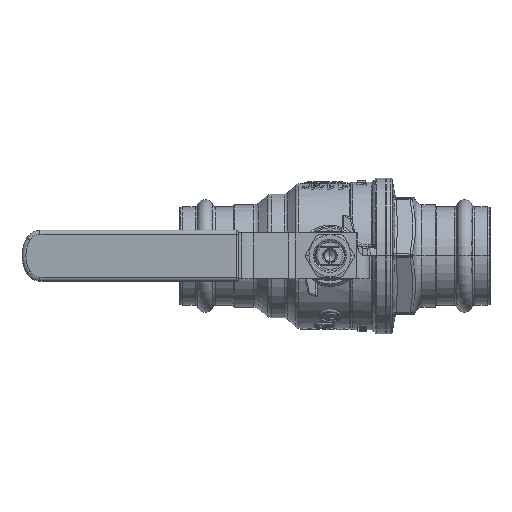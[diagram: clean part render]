
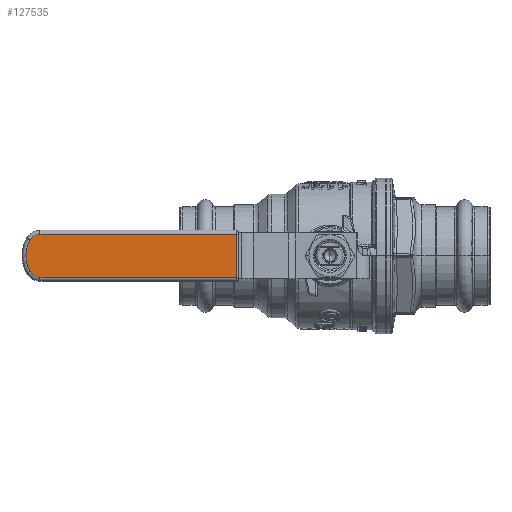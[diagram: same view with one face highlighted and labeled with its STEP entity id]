
A CAD part, top view. The second image highlights one B-rep face of the part: STEP entity #127535.
In plain terms, the highlighted planar face has unit normal (0, 0, 1).
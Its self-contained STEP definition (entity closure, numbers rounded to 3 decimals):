
#126556 = CYLINDRICAL_SURFACE('',#126557,0.7);
#126557 = AXIS2_PLACEMENT_3D('',#126558,#126559,#126560);
#126558 = CARTESIAN_POINT('',(-36.7,8.635,66.3));
#126559 = DIRECTION('',(0.,-1.,0.));
#126560 = DIRECTION('',(0.,0.,1.));
#127056 = VERTEX_POINT('',#127057);
#127057 = CARTESIAN_POINT('',(-36.7,8.5,67.));
#127079 = EDGE_CURVE('',#127056,#127080,#127082,.T.);
#127080 = VERTEX_POINT('',#127081);
#127081 = CARTESIAN_POINT('',(-36.7,-8.5,67.));
#127082 = SURFACE_CURVE('',#127083,(#127087,#127094),.PCURVE_S1.);
#127083 = LINE('',#127084,#127085);
#127084 = CARTESIAN_POINT('',(-36.7,8.5,67.));
#127085 = VECTOR('',#127086,1.);
#127086 = DIRECTION('',(0.,-1.,0.));
#127087 = PCURVE('',#126556,#127088);
#127088 = DEFINITIONAL_REPRESENTATION('',(#127089),#127093);
#127089 = LINE('',#127090,#127091);
#127090 = CARTESIAN_POINT('',(6.283,0.135));
#127091 = VECTOR('',#127092,1.);
#127092 = DIRECTION('',(0.,1.));
#127093 = ( GEOMETRIC_REPRESENTATION_CONTEXT(2) 
PARAMETRIC_REPRESENTATION_CONTEXT() REPRESENTATION_CONTEXT('2D SPACE',''
  ) );
#127094 = PCURVE('',#127095,#127100);
#127095 = PLANE('',#127096);
#127096 = AXIS2_PLACEMENT_3D('',#127097,#127098,#127099);
#127097 = CARTESIAN_POINT('',(-121.,10.,67.));
#127098 = DIRECTION('',(0.,0.,1.));
#127099 = DIRECTION('',(0.,-1.,0.));
#127100 = DEFINITIONAL_REPRESENTATION('',(#127101),#127105);
#127101 = LINE('',#127102,#127103);
#127102 = CARTESIAN_POINT('',(1.5,84.3));
#127103 = VECTOR('',#127104,1.);
#127104 = DIRECTION('',(1.,0.));
#127105 = ( GEOMETRIC_REPRESENTATION_CONTEXT(2) 
PARAMETRIC_REPRESENTATION_CONTEXT() REPRESENTATION_CONTEXT('2D SPACE',''
  ) );
#127151 = CYLINDRICAL_SURFACE('',#127152,1.5);
#127152 = AXIS2_PLACEMENT_3D('',#127153,#127154,#127155);
#127153 = CARTESIAN_POINT('',(-114.045,-8.5,65.5));
#127154 = DIRECTION('',(1.,0.,0.));
#127155 = DIRECTION('',(0.,-1.,0.));
#127445 = TOROIDAL_SURFACE('',#127446,4.5,1.5);
#127446 = AXIS2_PLACEMENT_3D('',#127447,#127448,#127449);
#127447 = CARTESIAN_POINT('',(-113.928,-4.,65.5));
#127448 = DIRECTION('',(0.,0.,-1.));
#127449 = DIRECTION('',(-0.882,-0.472,
    0.));
#127461 = VERTEX_POINT('',#127462);
#127462 = CARTESIAN_POINT('',(-117.825,-6.25,67.));
#127477 = TOROIDAL_SURFACE('',#127478,12.5,1.5);
#127478 = AXIS2_PLACEMENT_3D('',#127479,#127480,#127481);
#127479 = CARTESIAN_POINT('',(-107.,0.,65.5));
#127480 = DIRECTION('',(0.,0.,1.));
#127481 = DIRECTION('',(-0.861,0.508,0.)
  );
#127491 = VERTEX_POINT('',#127492);
#127492 = CARTESIAN_POINT('',(-113.928,-8.5,67.));
#127514 = EDGE_CURVE('',#127461,#127491,#127515,.T.);
#127515 = SURFACE_CURVE('',#127516,(#127521,#127528),.PCURVE_S1.);
#127516 = CIRCLE('',#127517,4.5);
#127517 = AXIS2_PLACEMENT_3D('',#127518,#127519,#127520);
#127518 = CARTESIAN_POINT('',(-113.928,-4.,67.));
#127519 = DIRECTION('',(0.,0.,1.));
#127520 = DIRECTION('',(-0.866,-0.5,0.));
#127521 = PCURVE('',#127445,#127522);
#127522 = DEFINITIONAL_REPRESENTATION('',(#127523),#127527);
#127523 = LINE('',#127524,#127525);
#127524 = CARTESIAN_POINT('',(6.251,4.712));
#127525 = VECTOR('',#127526,1.);
#127526 = DIRECTION('',(-1.,0.));
#127527 = ( GEOMETRIC_REPRESENTATION_CONTEXT(2) 
PARAMETRIC_REPRESENTATION_CONTEXT() REPRESENTATION_CONTEXT('2D SPACE',''
  ) );
#127528 = PCURVE('',#127095,#127529);
#127529 = DEFINITIONAL_REPRESENTATION('',(#127530),#127534);
#127530 = CIRCLE('',#127531,4.5);
#127531 = AXIS2_PLACEMENT_2D('',#127532,#127533);
#127532 = CARTESIAN_POINT('',(14.,7.072));
#127533 = DIRECTION('',(0.5,-0.866));
#127534 = ( GEOMETRIC_REPRESENTATION_CONTEXT(2) 
PARAMETRIC_REPRESENTATION_CONTEXT() REPRESENTATION_CONTEXT('2D SPACE',''
  ) );
#127535 = ADVANCED_FACE('',(#127536),#127095,.T.);
#127536 = FACE_BOUND('',#127537,.T.);
#127537 = EDGE_LOOP('',(#127538,#127566,#127595,#127617,#127618,#127639)
  );
#127538 = ORIENTED_EDGE('',*,*,#127539,.T.);
#127539 = EDGE_CURVE('',#127056,#127540,#127542,.T.);
#127540 = VERTEX_POINT('',#127541);
#127541 = CARTESIAN_POINT('',(-113.928,8.5,67.));
#127542 = SURFACE_CURVE('',#127543,(#127547,#127554),.PCURVE_S1.);
#127543 = LINE('',#127544,#127545);
#127544 = CARTESIAN_POINT('',(-36.7,8.5,67.));
#127545 = VECTOR('',#127546,1.);
#127546 = DIRECTION('',(-1.,0.,0.));
#127547 = PCURVE('',#127095,#127548);
#127548 = DEFINITIONAL_REPRESENTATION('',(#127549),#127553);
#127549 = LINE('',#127550,#127551);
#127550 = CARTESIAN_POINT('',(1.5,84.3));
#127551 = VECTOR('',#127552,1.);
#127552 = DIRECTION('',(0.,-1.));
#127553 = ( GEOMETRIC_REPRESENTATION_CONTEXT(2) 
PARAMETRIC_REPRESENTATION_CONTEXT() REPRESENTATION_CONTEXT('2D SPACE',''
  ) );
#127554 = PCURVE('',#127555,#127560);
#127555 = CYLINDRICAL_SURFACE('',#127556,1.5);
#127556 = AXIS2_PLACEMENT_3D('',#127557,#127558,#127559);
#127557 = CARTESIAN_POINT('',(-35.863,8.5,65.5));
#127558 = DIRECTION('',(-1.,0.,0.));
#127559 = DIRECTION('',(0.,1.,0.));
#127560 = DEFINITIONAL_REPRESENTATION('',(#127561),#127565);
#127561 = LINE('',#127562,#127563);
#127562 = CARTESIAN_POINT('',(4.712,0.837));
#127563 = VECTOR('',#127564,1.);
#127564 = DIRECTION('',(0.,1.));
#127565 = ( GEOMETRIC_REPRESENTATION_CONTEXT(2) 
PARAMETRIC_REPRESENTATION_CONTEXT() REPRESENTATION_CONTEXT('2D SPACE',''
  ) );
#127566 = ORIENTED_EDGE('',*,*,#127567,.T.);
#127567 = EDGE_CURVE('',#127540,#127568,#127570,.T.);
#127568 = VERTEX_POINT('',#127569);
#127569 = CARTESIAN_POINT('',(-117.825,6.25,67.));
#127570 = SURFACE_CURVE('',#127571,(#127576,#127583),.PCURVE_S1.);
#127571 = CIRCLE('',#127572,4.5);
#127572 = AXIS2_PLACEMENT_3D('',#127573,#127574,#127575);
#127573 = CARTESIAN_POINT('',(-113.928,4.,67.));
#127574 = DIRECTION('',(0.,0.,1.));
#127575 = DIRECTION('',(0.,1.,0.));
#127576 = PCURVE('',#127095,#127577);
#127577 = DEFINITIONAL_REPRESENTATION('',(#127578),#127582);
#127578 = CIRCLE('',#127579,4.5);
#127579 = AXIS2_PLACEMENT_2D('',#127580,#127581);
#127580 = CARTESIAN_POINT('',(6.,7.072));
#127581 = DIRECTION('',(-1.,0.));
#127582 = ( GEOMETRIC_REPRESENTATION_CONTEXT(2) 
PARAMETRIC_REPRESENTATION_CONTEXT() REPRESENTATION_CONTEXT('2D SPACE',''
  ) );
#127583 = PCURVE('',#127584,#127589);
#127584 = TOROIDAL_SURFACE('',#127585,4.5,1.5);
#127585 = AXIS2_PLACEMENT_3D('',#127586,#127587,#127588);
#127586 = CARTESIAN_POINT('',(-113.928,4.,65.5));
#127587 = DIRECTION('',(0.,0.,1.));
#127588 = DIRECTION('',(0.022,1.,
    0.));
#127589 = DEFINITIONAL_REPRESENTATION('',(#127590),#127594);
#127590 = LINE('',#127591,#127592);
#127591 = CARTESIAN_POINT('',(0.022,1.571));
#127592 = VECTOR('',#127593,1.);
#127593 = DIRECTION('',(1.,0.));
#127594 = ( GEOMETRIC_REPRESENTATION_CONTEXT(2) 
PARAMETRIC_REPRESENTATION_CONTEXT() REPRESENTATION_CONTEXT('2D SPACE',''
  ) );
#127595 = ORIENTED_EDGE('',*,*,#127596,.T.);
#127596 = EDGE_CURVE('',#127568,#127461,#127597,.T.);
#127597 = SURFACE_CURVE('',#127598,(#127603,#127610),.PCURVE_S1.);
#127598 = CIRCLE('',#127599,12.5);
#127599 = AXIS2_PLACEMENT_3D('',#127600,#127601,#127602);
#127600 = CARTESIAN_POINT('',(-107.,0.,67.));
#127601 = DIRECTION('',(0.,0.,1.));
#127602 = DIRECTION('',(-0.866,0.5,0.));
#127603 = PCURVE('',#127095,#127604);
#127604 = DEFINITIONAL_REPRESENTATION('',(#127605),#127609);
#127605 = CIRCLE('',#127606,12.5);
#127606 = AXIS2_PLACEMENT_2D('',#127607,#127608);
#127607 = CARTESIAN_POINT('',(10.,14.));
#127608 = DIRECTION('',(-0.5,-0.866));
#127609 = ( GEOMETRIC_REPRESENTATION_CONTEXT(2) 
PARAMETRIC_REPRESENTATION_CONTEXT() REPRESENTATION_CONTEXT('2D SPACE',''
  ) );
#127610 = PCURVE('',#127477,#127611);
#127611 = DEFINITIONAL_REPRESENTATION('',(#127612),#127616);
#127612 = LINE('',#127613,#127614);
#127613 = CARTESIAN_POINT('',(0.01,1.571));
#127614 = VECTOR('',#127615,1.);
#127615 = DIRECTION('',(1.,0.));
#127616 = ( GEOMETRIC_REPRESENTATION_CONTEXT(2) 
PARAMETRIC_REPRESENTATION_CONTEXT() REPRESENTATION_CONTEXT('2D SPACE',''
  ) );
#127617 = ORIENTED_EDGE('',*,*,#127514,.T.);
#127618 = ORIENTED_EDGE('',*,*,#127619,.T.);
#127619 = EDGE_CURVE('',#127491,#127080,#127620,.T.);
#127620 = SURFACE_CURVE('',#127621,(#127625,#127632),.PCURVE_S1.);
#127621 = LINE('',#127622,#127623);
#127622 = CARTESIAN_POINT('',(-113.928,-8.5,67.));
#127623 = VECTOR('',#127624,1.);
#127624 = DIRECTION('',(1.,0.,0.));
#127625 = PCURVE('',#127095,#127626);
#127626 = DEFINITIONAL_REPRESENTATION('',(#127627),#127631);
#127627 = LINE('',#127628,#127629);
#127628 = CARTESIAN_POINT('',(18.5,7.072));
#127629 = VECTOR('',#127630,1.);
#127630 = DIRECTION('',(0.,1.));
#127631 = ( GEOMETRIC_REPRESENTATION_CONTEXT(2) 
PARAMETRIC_REPRESENTATION_CONTEXT() REPRESENTATION_CONTEXT('2D SPACE',''
  ) );
#127632 = PCURVE('',#127151,#127633);
#127633 = DEFINITIONAL_REPRESENTATION('',(#127634),#127638);
#127634 = LINE('',#127635,#127636);
#127635 = CARTESIAN_POINT('',(4.712,0.117));
#127636 = VECTOR('',#127637,1.);
#127637 = DIRECTION('',(0.,1.));
#127638 = ( GEOMETRIC_REPRESENTATION_CONTEXT(2) 
PARAMETRIC_REPRESENTATION_CONTEXT() REPRESENTATION_CONTEXT('2D SPACE',''
  ) );
#127639 = ORIENTED_EDGE('',*,*,#127079,.F.);
